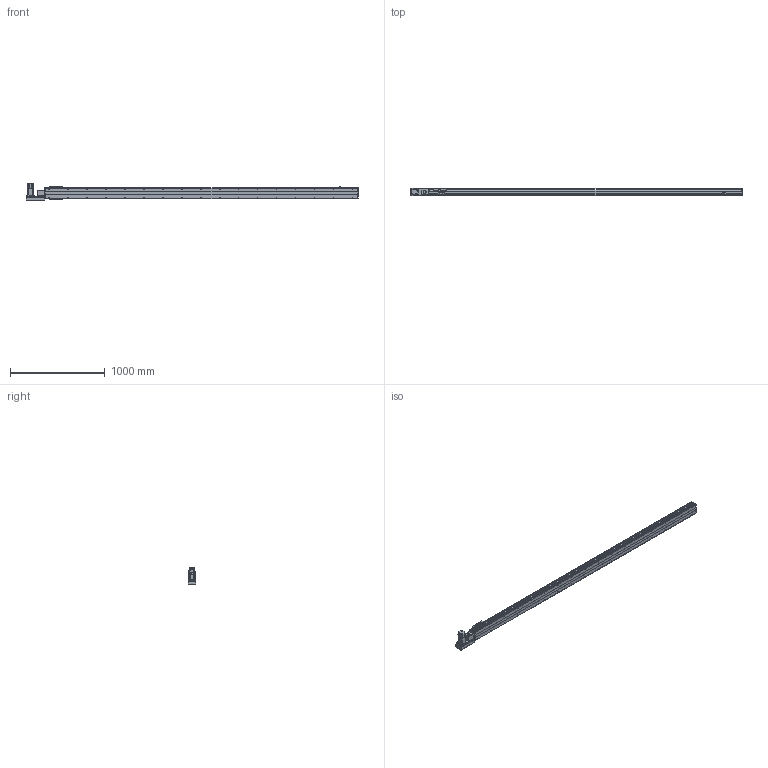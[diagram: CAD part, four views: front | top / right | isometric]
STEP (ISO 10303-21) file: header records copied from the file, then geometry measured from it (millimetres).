
FILE_DESCRIPTION( ( 'STEP AP214' ), '1' );
FILE_NAME( 'x:/temp/worker_26/temp/exporttempdir_3776_81_Y4C9M/format_0/PBS120-P40-S3000-L-T40-C1-N(0).stp', '2022-06-05T00:30:46', ( 'License CC BY-ND 4.0' ), ( 'CADENAS' ), ' ', 'PARTsolutions', ' ' );
FILE_SCHEMA( ( 'AUTOMOTIVE_DESIGN { 1 0 10303 214 1 1 1 1 }' ) );
Length unit declared in the file: millimetre
Products named in the file (7): PBS120-P40-S3000-L-T40-C1-N(0); _PBS120-S3000()_body; _PBS120T-L_motors; _T40-p1; _PBS120_sliser; _PBS120_plant; _PBS120_sensor
Assembly tree (8 placements, depth 2):
  PBS120-P40-S3000-L-T40-C1-N(0)
    _PBS120-S3000()_body
    _PBS120T-L_motors
    _T40-p1
    _PBS120_sliser
    _PBS120_plant
    _PBS120_sensor  x3
Bounding box: 3501 x 83 x 189.7 mm (x, y, z)
Volume: 12471304.9 mm3; surface area: 2599981.9 mm2
Topology: 8 solids, 8 shells, 882 faces, 2246 edges, 1441 vertices
Faces by surface type: plane 567, cylinder 247, cone 66, torus 2
Full cylindrical faces by diameter (mm): 2.459 x6, 3.242 x4, 4 x2, 4.134 x4, 4.5 x10, 4.917 x38, 5.5 x11, 6 x2, 6.6 x1, 7 x2, 8.5 x4, 9 x4, 12 x1, 14 x1, 30 x2, 40 x1, 50 x2
Entity records: 28836 total; most frequent: DIRECTION 3956, CARTESIAN_POINT 3839, ORIENTED_EDGE 3610, EDGE_CURVE 1805, AXIS2_PLACEMENT_3D 1364, VERTEX_POINT 1247, LINE 1228, VECTOR 1228
